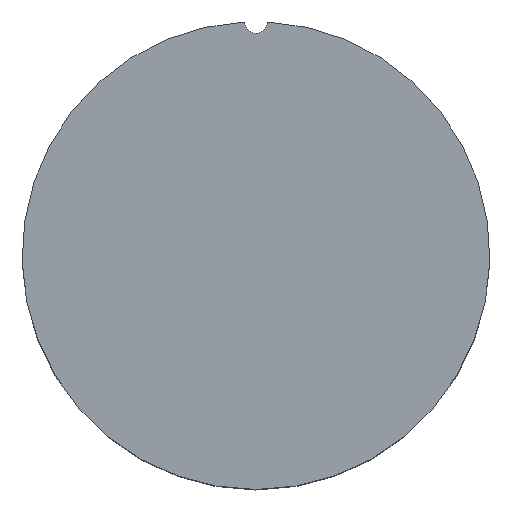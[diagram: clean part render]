
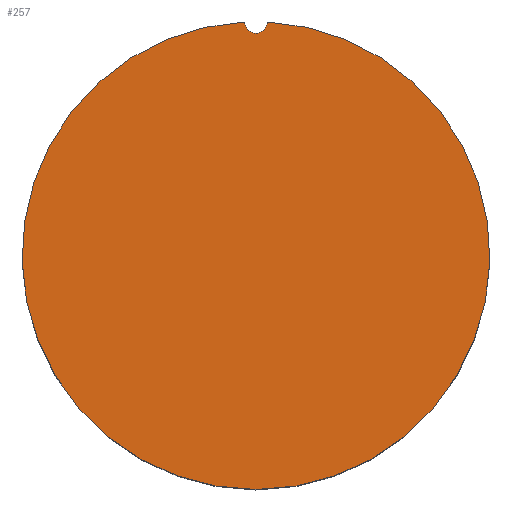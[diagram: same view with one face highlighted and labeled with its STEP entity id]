
A CAD part, top view. The second image highlights one B-rep face of the part: STEP entity #257.
In plain terms, the highlighted planar face has unit normal (0, 0, 1).
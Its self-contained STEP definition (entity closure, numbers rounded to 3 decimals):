
#29=PLANE('',#302);
#68=FACE_OUTER_BOUND('',#108,.T.);
#108=EDGE_LOOP('',(#220,#221));
#116=CIRCLE('',#274,1.25);
#131=CIRCLE('',#303,25.5);
#138=VERTEX_POINT('',#417);
#140=VERTEX_POINT('',#420);
#161=EDGE_CURVE('',#140,#138,#116,.T.);
#177=EDGE_CURVE('',#138,#140,#131,.T.);
#220=ORIENTED_EDGE('',*,*,#161,.T.);
#221=ORIENTED_EDGE('',*,*,#177,.T.);
#257=ADVANCED_FACE('',(#68),#29,.T.);
#274=AXIS2_PLACEMENT_3D('',#421,#334,#335);
#302=AXIS2_PLACEMENT_3D('',#463,#391,#392);
#303=AXIS2_PLACEMENT_3D('',#464,#393,#394);
#334=DIRECTION('center_axis',(0.,0.,-1.));
#335=DIRECTION('ref_axis',(1.,0.,0.));
#391=DIRECTION('center_axis',(0.,0.,1.));
#392=DIRECTION('ref_axis',(1.,0.,0.));
#393=DIRECTION('center_axis',(0.,0.,1.));
#394=DIRECTION('ref_axis',(-1.,0.,0.));
#417=CARTESIAN_POINT('',(-1.25,25.469,31.));
#420=CARTESIAN_POINT('',(1.25,25.469,31.));
#421=CARTESIAN_POINT('Origin',(0.,25.5,31.));
#463=CARTESIAN_POINT('Origin',(0.,0.,31.));
#464=CARTESIAN_POINT('Origin',(0.,0.,31.));
